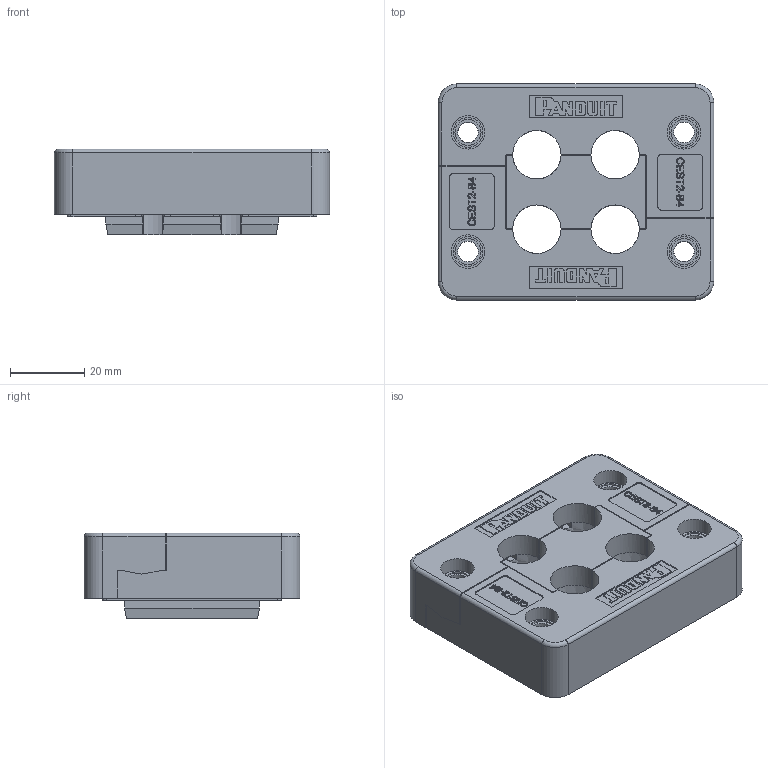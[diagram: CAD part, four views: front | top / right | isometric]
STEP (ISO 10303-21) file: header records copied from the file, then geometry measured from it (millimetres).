
FILE_DESCRIPTION(/* description */ (''),/* implementation_level */ '2;1');
FILE_NAME(/* name */ 'H:\SapWorkDir\Inventor\MP1\ConvertTempPath\87_11_121476_00_A_220620_KDL-D 6-4 ZSB.stp',/* time_stamp */ '2022-06-20T14:18:58+02:00',/* author */ ('BAUER'),/* organization */ (''),/* preprocessor_version */ 'ST-DEVELOPER v16.13',/* originating_system */ 'Autodesk Inventor 2018',/* authorisation */ '');
FILE_SCHEMA (('AUTOMOTIVE_DESIGN { 1 0 10303 214 3 1 1 }'));
Length unit declared in the file: millimetre
Products named in the file (4): 121476; 16-polig_Tüllenblock; 121423; KDL-D 16_Mittelteil
Assembly tree (4 placements, depth 2):
  121476
    16-polig_Tüllenblock
    121423  x2
    KDL-D 16_Mittelteil
Bounding box: 74 x 58 x 23 mm (x, y, z)
Volume: 58572.5 mm3; surface area: 34418.3 mm2
Topology: 4 solids, 8 shells, 1089 faces, 2921 edges, 1938 vertices
Faces by surface type: plane 727, cylinder 187, bspline 157, torus 12, cone 6
Full cylindrical faces by diameter (mm): 5 x6, 5.5 x10, 6 x2, 7 x4, 8 x4, 9 x4
Entity records: 23983 total; most frequent: CARTESIAN_POINT 5769, ORIENTED_EDGE 3940, DIRECTION 3351, EDGE_CURVE 1970, LINE 1425, VECTOR 1425, VERTEX_POINT 1315, AXIS2_PLACEMENT_3D 963
